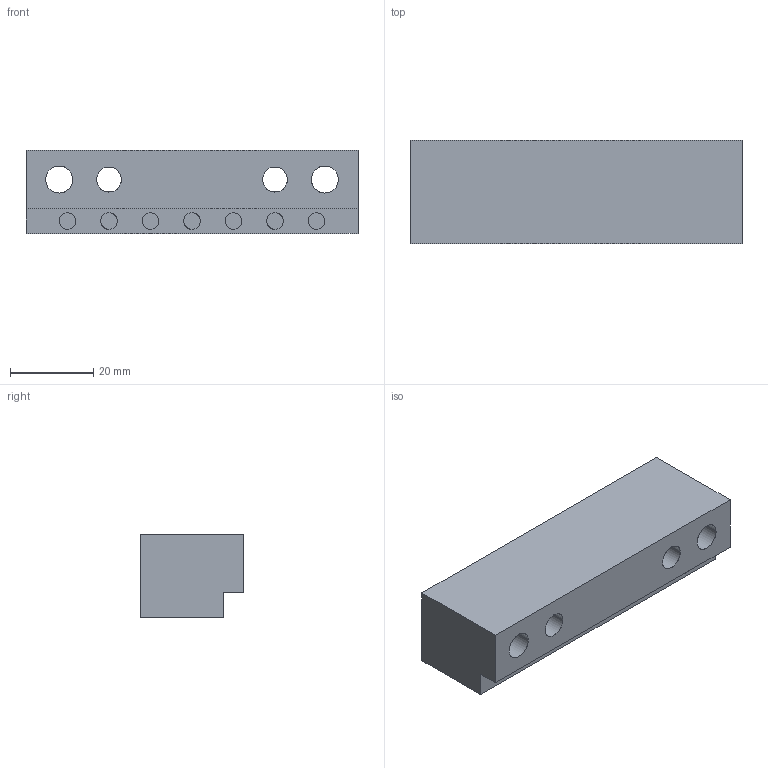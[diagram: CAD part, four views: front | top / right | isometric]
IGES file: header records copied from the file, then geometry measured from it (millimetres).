
Start section: START RECORD GO HERE.
Global section: file name: G40625080.igs; native system: DASSAULT SYSTEMES CATIA V5 R20 - www.3ds.com; preprocessor: CATIA Version 5 Release 20 ; author: r.borello; organization: CFTORINO; date: 20190624.150828; units: millimetre
Bounding box: 80 x 25 x 20 mm (x, y, z)
Surface area: 12654.7 mm2 (no closed solid volume)
Topology: 0 solids, 0 shells, 300 faces, 1270 edges, 1128 vertices
Faces by surface type: revolution 260, plane 40
